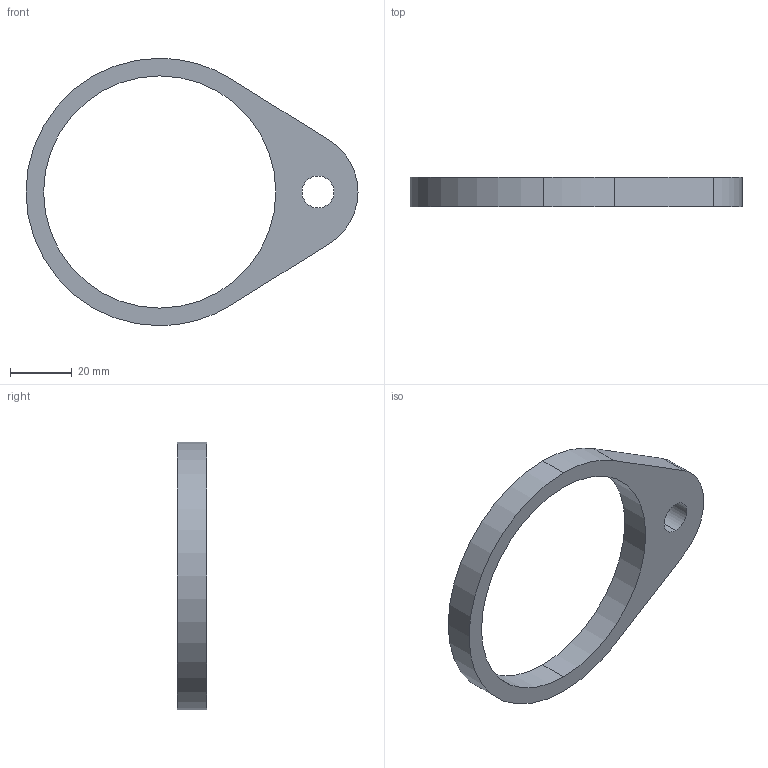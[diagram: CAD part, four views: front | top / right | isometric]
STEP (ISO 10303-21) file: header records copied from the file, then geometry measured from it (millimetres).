
FILE_DESCRIPTION (( 'STEP AP214' ), '1' );
FILE_NAME ('GasSpringClamp-A-75.stp', '2011-04-26T18:54:55', ( '' ), ( '' ), 'SwSTEP 2.0', 'SolidWorks 2010', '' );
FILE_SCHEMA (( 'AUTOMOTIVE_DESIGN' ));
Length unit declared in the file: inch
Products named in the file (1): GasSpringClamp-A-75
Bounding box: 107.2 x 9.53 x 86.36 mm (x, y, z)
Volume: 21190.3 mm3; surface area: 9849.7 mm2
Topology: 1 solids, 1 shells, 12 faces, 30 edges, 20 vertices
Faces by surface type: cylinder 8, plane 4
Entity records: 418 total; most frequent: DIRECTION 72, CARTESIAN_POINT 63, ORIENTED_EDGE 60, EDGE_CURVE 30, AXIS2_PLACEMENT_3D 29, VERTEX_POINT 20, CIRCLE 16, EDGE_LOOP 16
